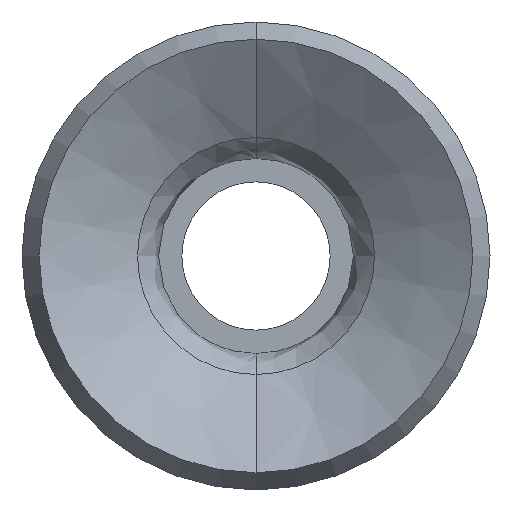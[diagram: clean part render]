
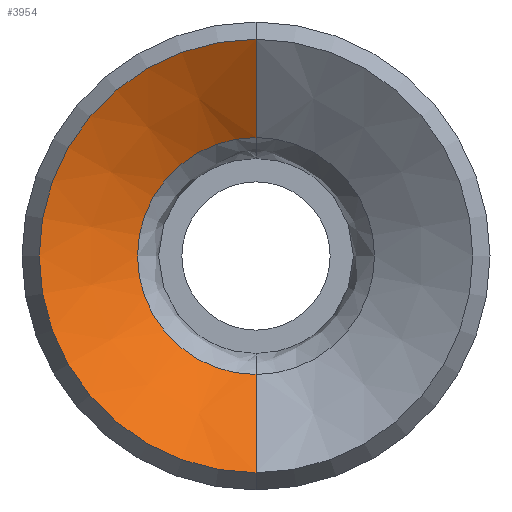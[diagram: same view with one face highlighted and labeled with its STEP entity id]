
A CAD part, front view. The second image highlights one B-rep face of the part: STEP entity #3954.
In plain terms, the highlighted conical face has half-angle 56.544 degrees and reference radius 5.559 mm.
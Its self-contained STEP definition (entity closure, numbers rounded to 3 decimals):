
#630 = LINE ( 'NONE', #4311, #5517 ) ;
#680 = CARTESIAN_POINT ( 'NONE',  ( 0., -19.335, 0. ) ) ;
#1828 = AXIS2_PLACEMENT_3D ( 'NONE', #9873, #2669, #6241 ) ;
#1996 = EDGE_CURVE ( 'NONE', #10788, #6092, #8296, .T. ) ;
#2597 = DIRECTION ( 'NONE',  ( 0., 0., 1. ) ) ;
#2669 = DIRECTION ( 'NONE',  ( 0., 1., 0. ) ) ;
#2913 = VECTOR ( 'NONE', #6880, 1000. ) ;
#3159 = ORIENTED_EDGE ( 'NONE', *, *, #3243, .F. ) ;
#3238 = VERTEX_POINT ( 'NONE', #10631 ) ;
#3242 = ORIENTED_EDGE ( 'NONE', *, *, #1996, .F. ) ;
#3243 = EDGE_CURVE ( 'NONE', #8639, #10788, #4468, .T. ) ;
#3727 = CARTESIAN_POINT ( 'NONE',  ( 0., -21., 0. ) ) ;
#3954 = ADVANCED_FACE ( 'NONE', ( #4444 ), #4279, .F. ) ;
#4066 = CARTESIAN_POINT ( 'NONE',  ( 0., -21., -5.559 ) ) ;
#4241 = DIRECTION ( 'NONE',  ( 0., -1., 0. ) ) ;
#4279 = CONICAL_SURFACE ( 'NONE', #10833, 5.559, 0.987 ) ;
#4311 = CARTESIAN_POINT ( 'NONE',  ( 0., -21., 5.559 ) ) ;
#4444 = FACE_OUTER_BOUND ( 'NONE', #5042, .T. ) ;
#4468 = CIRCLE ( 'NONE', #5224, 3.038 ) ;
#5042 = EDGE_LOOP ( 'NONE', ( #3159, #11110, #9731, #3242 ) ) ;
#5224 = AXIS2_PLACEMENT_3D ( 'NONE', #680, #4241, #2597 ) ;
#5443 = EDGE_CURVE ( 'NONE', #6092, #3238, #6488, .T. ) ;
#5497 = DIRECTION ( 'NONE',  ( 0., -1., 0. ) ) ;
#5517 = VECTOR ( 'NONE', #11246, 1000. ) ;
#6092 = VERTEX_POINT ( 'NONE', #4066 ) ;
#6241 = DIRECTION ( 'NONE',  ( 0., 0., 1. ) ) ;
#6488 = CIRCLE ( 'NONE', #1828, 5.559 ) ;
#6604 = CARTESIAN_POINT ( 'NONE',  ( 0., -19.335, 3.038 ) ) ;
#6880 = DIRECTION ( 'NONE',  ( 0., -0.551, -0.834 ) ) ;
#8070 = DIRECTION ( 'NONE',  ( 0., 0., -1. ) ) ;
#8296 = LINE ( 'NONE', #10517, #2913 ) ;
#8639 = VERTEX_POINT ( 'NONE', #6604 ) ;
#9293 = CARTESIAN_POINT ( 'NONE',  ( 0., -19.335, -3.038 ) ) ;
#9731 = ORIENTED_EDGE ( 'NONE', *, *, #5443, .F. ) ;
#9873 = CARTESIAN_POINT ( 'NONE',  ( 0., -21., 0. ) ) ;
#10517 = CARTESIAN_POINT ( 'NONE',  ( 0., -21., -5.559 ) ) ;
#10631 = CARTESIAN_POINT ( 'NONE',  ( 0., -21., 5.559 ) ) ;
#10788 = VERTEX_POINT ( 'NONE', #9293 ) ;
#10833 = AXIS2_PLACEMENT_3D ( 'NONE', #3727, #5497, #8070 ) ;
#11110 = ORIENTED_EDGE ( 'NONE', *, *, #11250, .T. ) ;
#11246 = DIRECTION ( 'NONE',  ( 0., -0.551, 0.834 ) ) ;
#11250 = EDGE_CURVE ( 'NONE', #8639, #3238, #630, .T. ) ;
